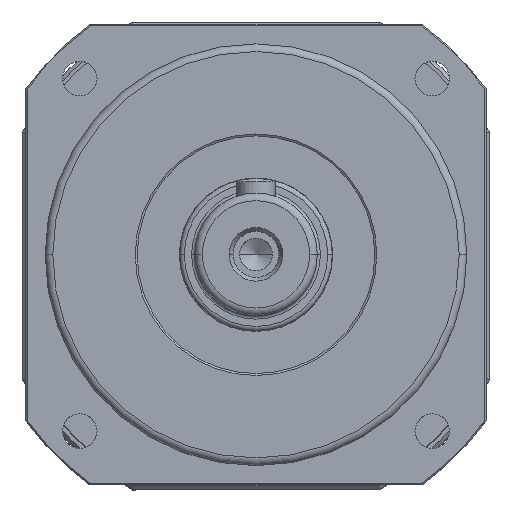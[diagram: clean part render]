
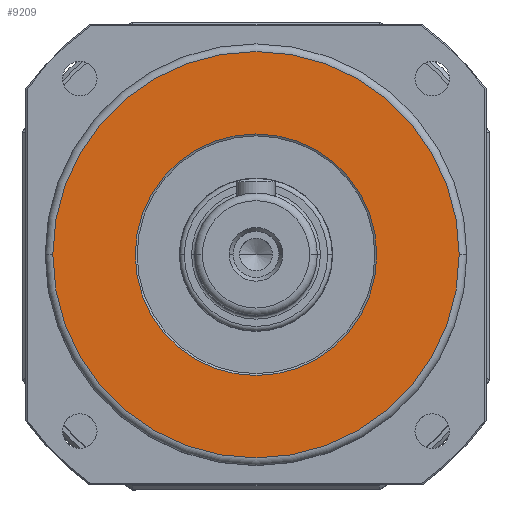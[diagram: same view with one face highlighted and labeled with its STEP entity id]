
A CAD part, top view. The second image highlights one B-rep face of the part: STEP entity #9209.
In plain terms, the highlighted planar face has unit normal (0, 0, 1).
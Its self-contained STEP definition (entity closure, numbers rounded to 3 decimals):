
#3931 = EDGE_CURVE ( 'NONE', #5407, #5408, #10740, .T. ) ;
#5306 = EDGE_CURVE ( 'NONE', #5408, #5407, #10588, .T. ) ;
#5307 = EDGE_CURVE ( 'NONE', #5405, #5382, #10582, .T. ) ;
#5382 = VERTEX_POINT ( 'NONE', #14160 ) ;
#5405 = VERTEX_POINT ( 'NONE', #14183 ) ;
#5407 = VERTEX_POINT ( 'NONE', #14185 ) ;
#5408 = VERTEX_POINT ( 'NONE', #14186 ) ;
#5483 = ORIENTED_EDGE ( 'NONE', *, *, #3931, .T. ) ;
#5485 = ORIENTED_EDGE ( 'NONE', *, *, #5306, .T. ) ;
#5486 = ORIENTED_EDGE ( 'NONE', *, *, #5307, .T. ) ;
#5487 = ORIENTED_EDGE ( 'NONE', *, *, #7191, .T. ) ;
#7191 = EDGE_CURVE ( 'NONE', #5382, #5405, #9795, .T. ) ;
#9209 = ADVANCED_FACE ( 'NONE', ( #15388, #15389 ), #9997, .T. ) ;
#9795 = CIRCLE ( 'NONE', #9797, 53. ) ;
#9797 = AXIS2_PLACEMENT_3D ( 'NONE', #9918, #9919, #9920 ) ;
#9827 = AXIS2_PLACEMENT_3D ( 'NONE', #9998, #9999, #10000 ) ;
#9918 = CARTESIAN_POINT ( 'NONE',  ( 0., 0., 12. ) ) ;
#9919 = DIRECTION ( 'NONE',  ( 0., 0., 1. ) ) ;
#9920 = DIRECTION ( 'NONE',  ( 1., 0., 0. ) ) ;
#9997 = PLANE ( 'NONE',  #9827 ) ;
#9998 = CARTESIAN_POINT ( 'NONE',  ( 0., 0., 12. ) ) ;
#9999 = DIRECTION ( 'NONE',  ( 0., 0., 1. ) ) ;
#10000 = DIRECTION ( 'NONE',  ( 1., 0., 0. ) ) ;
#10227 = EDGE_LOOP ( 'NONE', ( #5483, #5485 ) ) ;
#10228 = EDGE_LOOP ( 'NONE', ( #5487, #5486 ) ) ;
#10582 = CIRCLE ( 'NONE', #10596, 53. ) ;
#10588 = CIRCLE ( 'NONE', #10594, 31.5 ) ;
#10594 = AXIS2_PLACEMENT_3D ( 'NONE', #14060, #14062, #14063 ) ;
#10596 = AXIS2_PLACEMENT_3D ( 'NONE', #14066, #14068, #14069 ) ;
#10660 = CARTESIAN_POINT ( 'NONE',  ( 0., 0., 12. ) ) ;
#10661 = DIRECTION ( 'NONE',  ( 0., 0., -1. ) ) ;
#10662 = DIRECTION ( 'NONE',  ( 1., 0., 0. ) ) ;
#10740 = CIRCLE ( 'NONE', #10743, 31.5 ) ;
#10743 = AXIS2_PLACEMENT_3D ( 'NONE', #10660, #10661, #10662 ) ;
#14060 = CARTESIAN_POINT ( 'NONE',  ( 0., 0., 12. ) ) ;
#14062 = DIRECTION ( 'NONE',  ( 0., 0., -1. ) ) ;
#14063 = DIRECTION ( 'NONE',  ( 1., 0., 0. ) ) ;
#14066 = CARTESIAN_POINT ( 'NONE',  ( 0., 0., 12. ) ) ;
#14068 = DIRECTION ( 'NONE',  ( 0., 0., 1. ) ) ;
#14069 = DIRECTION ( 'NONE',  ( 1., 0., 0. ) ) ;
#14160 = CARTESIAN_POINT ( 'NONE',  ( 53., 0., 12. ) ) ;
#14183 = CARTESIAN_POINT ( 'NONE',  ( -53., 0., 12. ) ) ;
#14185 = CARTESIAN_POINT ( 'NONE',  ( 31.5, 0., 12. ) ) ;
#14186 = CARTESIAN_POINT ( 'NONE',  ( -31.5, 0., 12. ) ) ;
#15388 = FACE_BOUND ( 'NONE', #10227, .T. ) ;
#15389 = FACE_OUTER_BOUND ( 'NONE', #10228, .T. ) ;
